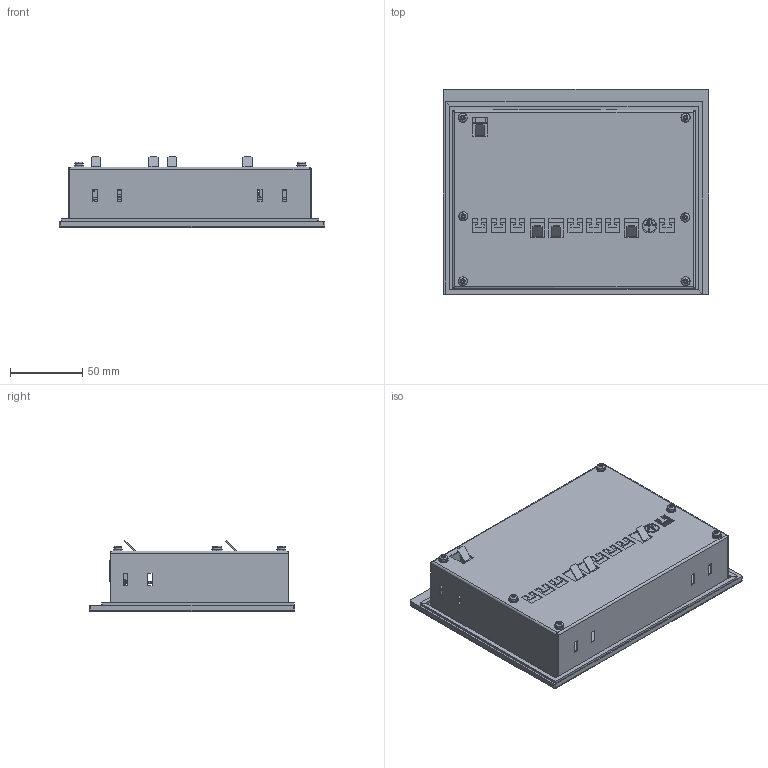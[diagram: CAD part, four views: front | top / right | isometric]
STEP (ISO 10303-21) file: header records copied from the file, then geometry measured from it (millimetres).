
FILE_DESCRIPTION (( 'STEP AP214' ), '1' );
FILE_NAME ('HZS7321 05-895-7321 20201028.STEP', '2020-10-28T12:47:41', ( 'Windows-Benutzer' ), ( '' ), 'SwSTEP 2.0', 'SolidWorks 2018', '' );
FILE_SCHEMA (( 'AUTOMOTIVE_DESIGN' ));
Length unit declared in the file: millimetre
Products named in the file (22): 114901_f. Support; 148500_f. Support; 4080221139 WM_S2L-3.5_6_90G_SMT; 4080225241 USB_MINI-B_SINGLE_90_SMD; 4080225548 MSD_CONS_PJS008-4100; ZExxxx-5047-x1 Gehäuse HZS7321_f. Support; 3030301101 Senkschraube ISO 14581 M2 x 6 - 8.8 - Torx; ZM1550-3919-11 Flachdichtungsset 7 Zoll Front (ETT731,ETT732); 148500_V2_f. Support; 7227771150 7 Zoll TFT Disp Multi Inno MIO700S6T-1CP7 _ohne Touchtail; 3030301010 - 1 Flachkopfschraube ISO 7045 (DIN 7985) M3 x 6 - Z7 - 4.8 Torx; ZExxxx-5046-x1 Front HZS7321_f. Support; 4080225208 M-RJSSE-5380-REVT1; USB-A_SINGLE_90_VERTIKAL_KURZ USB-A_SINGLE_90_VERTIKAL_KURZ; Batteriedeckel; HZS7321 05-895-7321 20201028; 4110251205 4pol.Minicombicon-Grundgehäuse RM3,5 1937512; 4110251191 4pol.Mini-Combicon Grundgeh. RM3,5 1844236; 4080221142_S2L-SMT_3_50_10_90G_3_2SN_BK_BX_1794230000_2_14
Assembly tree (29 placements, depth 3):
  HZS7321 05-895-7321 20201028
    ZExxxx-5046-x1 Front HZS7321_f. Support
      ZExxxx-5046-x1 Front HZS7321_f. Support
    7227771150 7 Zoll TFT Disp Multi Inno MIO700S6T-1CP7 _ohne Touchtail
    114901_f. Support
      114901_f. Support
      4110251191 4pol.Mini-Combicon Grundgeh. RM3,5 1844236
    148500_V2_f. Support
      148500_f. Support
      4080225241 USB_MINI-B_SINGLE_90_SMD
      4080225548 MSD_CONS_PJS008-4100
      4080221139 WM_S2L-3.5_6_90G_SMT  x3
      USB-A_SINGLE_90_VERTIKAL_KURZ USB-A_SINGLE_90_VERTIKAL_KURZ
      4080225208 M-RJSSE-5380-REVT1
      4110251205 4pol.Minicombicon-Grundgehäuse RM3,5 1937512
      4080221142_S2L-SMT_3_50_10_90G_3_2SN_BK_BX_1794230000_2_14
    3030301010 - 1 Flachkopfschraube ISO 7045 (DIN 7985) M3 x 6 - Z7 - 4.8 Torx  x6
    3030301101 Senkschraube ISO 14581 M2 x 6 - 8.8 - Torx
    ZM1550-3919-11 Flachdichtungsset 7 Zoll Front (ETT731,ETT732)  x2
    ZExxxx-5047-x1 Gehäuse HZS7321_f. Support
      ZExxxx-5047-x1 Gehäuse HZS7321_f. Support
    Batteriedeckel
Bounding box: 183.6 x 142.2 x 49.32 mm (x, y, z)
Volume: 231031.1 mm3; surface area: 208393.1 mm2
Topology: 25 solids, 32 shells, 5642 faces, 15526 edges, 10021 vertices
Faces by surface type: plane 4166, cylinder 1154, bspline 206, cone 91, torus 25
Full cylindrical faces by diameter (mm): 0.2 x2, 0.9 x1
Entity records: 181244 total; most frequent: CARTESIAN_POINT 38200, ORIENTED_EDGE 25524, DIRECTION 22183, EDGE_CURVE 12767, LINE 10027, VECTOR 10027, VERTEX_POINT 8241, AXIS2_PLACEMENT_3D 6078
